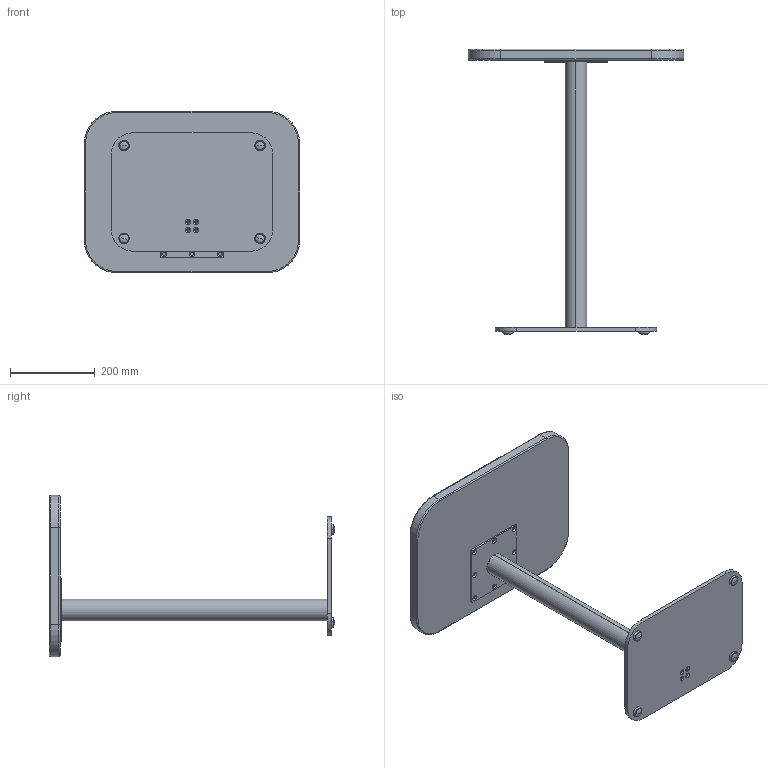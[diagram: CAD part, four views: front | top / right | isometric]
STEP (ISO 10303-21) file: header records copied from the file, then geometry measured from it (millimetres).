
FILE_DESCRIPTION (( 'STEP AP203' ), '1' );
FILE_NAME ('SIEN-LAP-1115-SHORT-FX.STEP', '2024-10-15T18:44:52', ( '' ), ( '' ), 'SwSTEP 2.0', 'SolidWorks 2021', '' );
FILE_SCHEMA (( 'CONFIG_CONTROL_DESIGN' ));
Length unit declared in the file: inch
Products named in the file (10): 150mm Square Plate; 11X15_RECTANGLE_C_BASEPLATE_ASSY.SHORT; C2.25 Column; TT-20x15-Custom Square TableTop; Welded C-2.25 Col Prototype; 11X15_RECTANGLE_C_BASEPLATE_SHORT_Center Mount; C2.25 Column Insert Plate; ALG-SS; 90720A520_Heavy Duty Twist-Resistant Rivet Nut_90720A520; SIEN-LAP-1115-SHORT-FX
Assembly tree (15 placements, depth 3):
  SIEN-LAP-1115-SHORT-FX
    11X15_RECTANGLE_C_BASEPLATE_ASSY.SHORT
      11X15_RECTANGLE_C_BASEPLATE_SHORT_Center Mount
      ALG-SS  x4
    Welded C-2.25 Col Prototype
      150mm Square Plate
      C2.25 Column
      C2.25 Column Insert Plate
      90720A520_Heavy Duty Twist-Resistant Rivet Nut_90720A520  x4
    TT-20x15-Custom Square TableTop
Bounding box: 508 x 673.1 x 381 mm (x, y, z)
Volume: 6087938.4 mm3; surface area: 891826.4 mm2
Topology: 17 solids, 17 shells, 569 faces, 1337 edges, 806 vertices
Faces by surface type: cylinder 231, cone 192, plane 102, bspline 20, torus 16, sphere 8
Entity records: 12270 total; most frequent: CARTESIAN_POINT 5002, DIRECTION 1321, ORIENTED_EDGE 1224, EDGE_CURVE 612, AXIS2_PLACEMENT_3D 507, VERTEX_POINT 377, VECTOR 307, LINE 307
